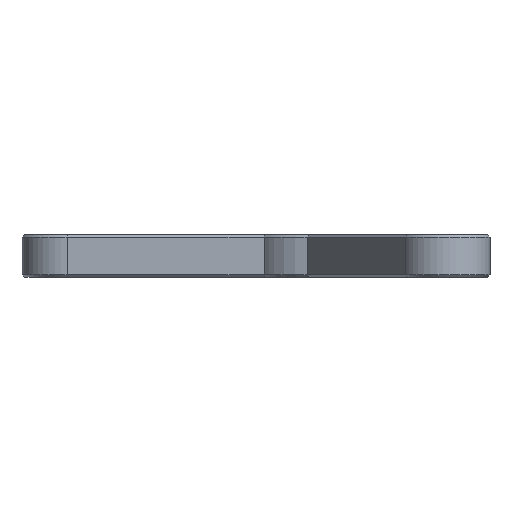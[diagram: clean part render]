
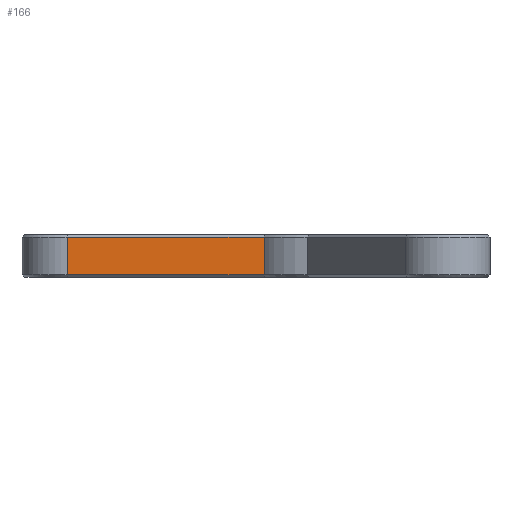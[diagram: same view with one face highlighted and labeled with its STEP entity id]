
A CAD part, left-side view. The second image highlights one B-rep face of the part: STEP entity #166.
In plain terms, the highlighted planar face has unit normal (-1, 0, 0).
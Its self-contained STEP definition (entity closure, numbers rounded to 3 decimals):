
#166=ADVANCED_FACE('',(#365),#3298,.T.);
#365=FACE_OUTER_BOUND('',#565,.T.);
#565=EDGE_LOOP('',(#1412,#1413,#1414,#1415));
#1412=ORIENTED_EDGE('',*,*,#2070,.F.);
#1413=ORIENTED_EDGE('',*,*,#2078,.T.);
#1414=ORIENTED_EDGE('',*,*,#2060,.T.);
#1415=ORIENTED_EDGE('',*,*,#2284,.F.);
#2060=EDGE_CURVE('',#3061,#3097,#2669,.T.);
#2070=EDGE_CURVE('',#3071,#3129,#2673,.T.);
#2078=EDGE_CURVE('',#3071,#3061,#2680,.T.);
#2284=EDGE_CURVE('',#3129,#3097,#2840,.T.);
#2669=B_SPLINE_CURVE_WITH_KNOTS('',1,(#150581,#150582),.UNSPECIFIED.,.F.,
 .F.,(2,2),(0.481,7.519),.UNSPECIFIED.);
#2673=B_SPLINE_CURVE_WITH_KNOTS('',1,(#150603,#150604),.UNSPECIFIED.,.F.,
 .F.,(2,2),(0.4,6.257),.UNSPECIFIED.);
#2680=B_SPLINE_CURVE_WITH_KNOTS('',1,(#150620,#150621),.UNSPECIFIED.,.F.,
 .F.,(2,2),(0.,30.515),.UNSPECIFIED.);
#2840=B_SPLINE_CURVE_WITH_KNOTS('',1,(#151586,#151587),.UNSPECIFIED.,.F.,
 .F.,(2,2),(0.,30.515),.UNSPECIFIED.);
#3061=VERTEX_POINT('',#143001);
#3071=VERTEX_POINT('',#143011);
#3097=VERTEX_POINT('',#143037);
#3129=VERTEX_POINT('',#143069);
#3298=PLANE('',#3468);
#3468=AXIS2_PLACEMENT_3D('',#38172,#3551,$);
#3551=DIRECTION('',(-1.,0.,0.));
#38172=CARTESIAN_POINT('',(-7.,0.,6.657));
#143001=CARTESIAN_POINT('',(-7.,39.,6.257));
#143011=CARTESIAN_POINT('',(-7.,8.485,6.257));
#143037=CARTESIAN_POINT('',(-7.,39.,0.4));
#143069=CARTESIAN_POINT('',(-7.,8.485,0.4));
#150581=CARTESIAN_POINT('',(-7.,39.,6.257));
#150582=CARTESIAN_POINT('',(-7.,39.,0.4));
#150603=CARTESIAN_POINT('',(-7.,8.485,6.257));
#150604=CARTESIAN_POINT('',(-7.,8.485,0.4));
#150620=CARTESIAN_POINT('',(-7.,8.485,6.257));
#150621=CARTESIAN_POINT('',(-7.,39.,6.257));
#151586=CARTESIAN_POINT('',(-7.,8.485,0.4));
#151587=CARTESIAN_POINT('',(-7.,39.,0.4));
